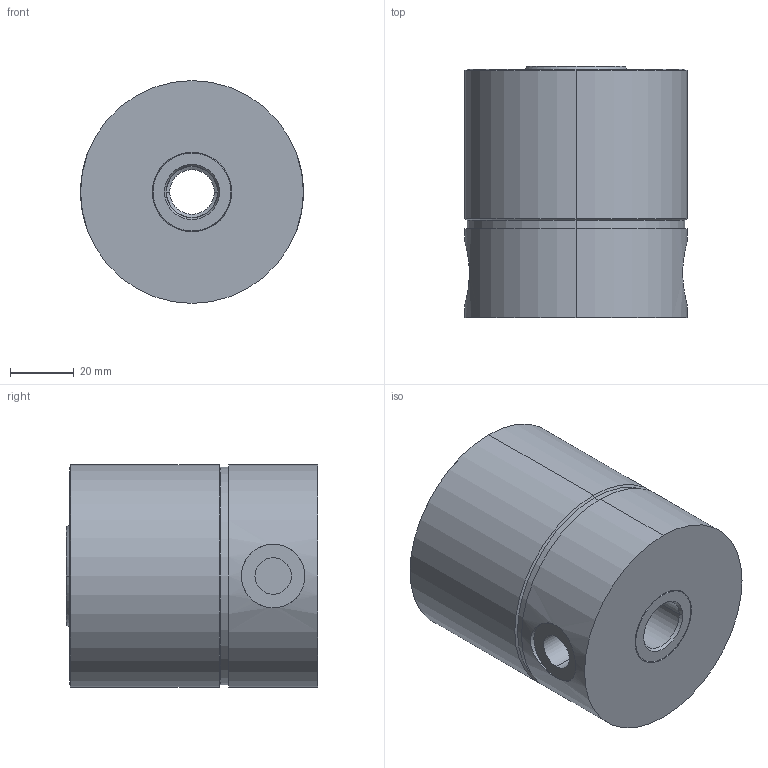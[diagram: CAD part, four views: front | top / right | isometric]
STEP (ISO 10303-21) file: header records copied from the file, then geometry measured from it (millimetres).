
FILE_DESCRIPTION (( 'STEP AP203' ), '1' );
FILE_NAME ('GERMA_Hohlkolbenzylinder_82-63-2-1.STEP', '2016-01-03T17:28:05', ( '' ), ( '' ), 'SwSTEP 2.0', 'SolidWorks 2015', '' );
FILE_SCHEMA (( 'CONFIG_CONTROL_DESIGN' ));
Length unit declared in the file: millimetre
Products named in the file (3): Gehaeuse 82-63-2_Geh„use; Kolben 82-63-X-1_Kolben; GERMA_Hohlkolbenzylinder_82-63-2-1
Assembly tree (2 placements, depth 2):
  GERMA_Hohlkolbenzylinder_82-63-2-1
    Gehaeuse 82-63-2_Geh„use
    Kolben 82-63-X-1_Kolben
Bounding box: 70 x 79 x 70 mm (x, y, z)
Volume: 262653.9 mm3; surface area: 52171.7 mm2
Topology: 2 solids, 2 shells, 78 faces, 160 edges, 98 vertices
Faces by surface type: cylinder 38, cone 22, plane 18
Entity records: 2529 total; most frequent: CARTESIAN_POINT 513, DIRECTION 410, ORIENTED_EDGE 312, AXIS2_PLACEMENT_3D 175, EDGE_CURVE 156, VERTEX_POINT 98, EDGE_LOOP 98, CIRCLE 92
